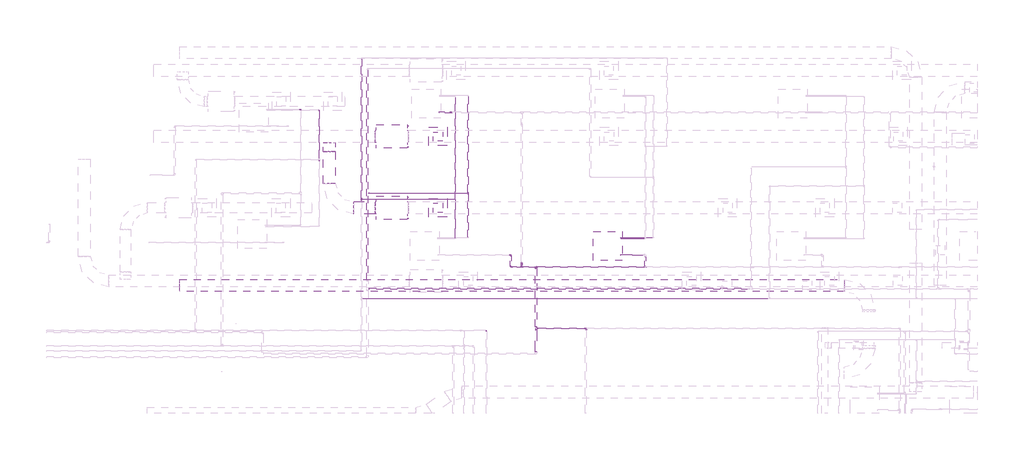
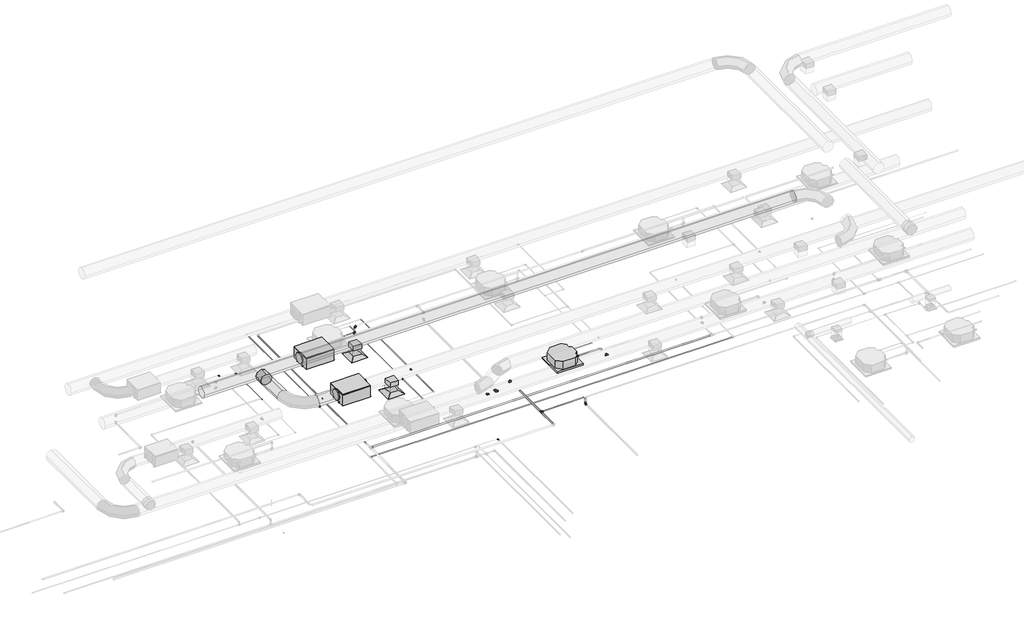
# One storey, part 16 of 21: 28 pipe segments, 26 pipe fittings, 5 duct segments, 3 duct fittings, 3 proxies, 2 air terminals.
"""IFC4 building model written with IfcOpenShell, lengths in millimetres."""

from ifc_helpers import new_model, si_unit, point, frame, frame_2d, origin, place, context, project, spatial, polyline, circle_curve, trimmed, segment, composite_curve, outline, extrude, transform, mapped, element, save
from components import air_terminal_ff221211, mechanical_equipment_53173f38, fh_fh_400_6e0c7af0, duct_fitting_1040440d, duct_fitting_95c1ddea, pipe_fitting_535881cf, pipe_fitting_144f4440, pipe_fitting_14eb6376, pipe_fitting_094f8e04, pipe_fitting_ec53ccd8, pipe_fitting_bac944c5, pipe_fitting_c8e70db0, pipe_fitting_47422d38, pipe_fitting_139f5212, pipe_fitting_e567efff, pipe_fitting_182e23ec, pipe_fitting_c900cfc2, pipe_fitting_16c020f5, pipe_fitting_b10472de, pipe_fitting_59d1f3e3, pipe_fitting_648138cd, pipe_fitting_725bd888, pipe_fitting_da16c1b3, pipe_fitting_5a6d96d3, pipe_fitting_3e80353c, pipe_fitting_15d42c28

model = new_model("IFC4")

# Units and contexts
model_context = context("Model", 3, world=origin())
ifc_project = project(units=[si_unit("LENGTHUNIT", "METRE", prefix="MILLI")], contexts=[model_context])

# Site, building, storey
site = spatial("IfcSite", under=ifc_project)
building = spatial("IfcBuilding", under=site)
storey = spatial("IfcBuildingStorey", under=building, Name="Nível 1", Elevation=0.0)

# Air terminals
placement = place(None, origin())
air_terminal_shape = air_terminal_ff221211(model_context)
element("IfcAirTerminal", 1, ObjectType="M_Difusor de fornecimento : 600 x 600 Face 300 x 300 Conexão", at=placement, inside=storey, context=model_context, shape_type="MappedRepresentation", body=[
    mapped(air_terminal_shape, transform((6574.1370645, 4681.9327662, 3000.0), x_axis=(0.0, -1.0, 0.0), y_axis=(1.0, 0.0, 0.0), z_axis=(0.0, 0.0, 1.0))),
])
element("IfcAirTerminal", 2, ObjectType="M_Difusor de fornecimento : 600 x 600 Face 300 x 300 Conexão", at=placement, inside=storey, context=model_context, shape_type="MappedRepresentation", body=[
    mapped(air_terminal_shape, transform((6574.1370645, 7022.5342821, 3000.0), x_axis=(0.0, -1.0, 0.0), y_axis=(1.0, 0.0, 0.0), z_axis=(0.0, 0.0, 1.0))),
])

# Proxies
mechanical_equipment_shape = mechanical_equipment_53173f38(model_context)
element("IfcBuildingElementProxy", 3, Name="Midea_VRF_Indoor_4-way Cassette_MI-90(100,112,140)Q4_DHN1-D (2nd DC) : MI2-112Q4DHN1", ObjectType="Midea_VRF_Indoor_4-way Cassette_MI-90(100,112,140)Q4_DHN1-D (2nd DC) : MI2-112Q4DHN1", at=placement, inside=storey, context=model_context, shape_type="MappedRepresentation", body=[
    mapped(mechanical_equipment_shape, transform((12136.4781645, 3426.4200133, 3000.0), x_axis=(1.0, 0.0, 0.0), y_axis=(0.0, 1.0, 0.0), z_axis=(0.0, 0.0, 1.0))),
])
fh_fh_400_shape = fh_fh_400_6e0c7af0(model_context)
element("IfcBuildingElementProxy", 4, Name="FH : FH 400", ObjectType="FH : FH 400", at=placement, inside=storey, context=model_context, shape_type="MappedRepresentation", body=[
    mapped(fh_fh_400_shape, transform((5060.3899244, 7022.5342821, 3400.0), x_axis=(0.0, 1.0, 0.0), y_axis=(-1.0, 0.0, 0.0), z_axis=(0.0, 0.0, 1.0))),
])
element("IfcBuildingElementProxy", 5, Name="FH : FH 400", ObjectType="FH : FH 400", at=placement, inside=storey, context=model_context, shape_type="MappedRepresentation", body=[
    mapped(fh_fh_400_shape, transform((5060.3899244, 4681.9327662, 3400.0), x_axis=(0.0, 1.0, 0.0), y_axis=(-1.0, 0.0, 0.0), z_axis=(0.0, 0.0, 1.0))),
])

# Duct fittings
duct_fitting_shape = duct_fitting_1040440d(model_context)
element("IfcDuctFitting", 6, ObjectType="M_Encaixe de duto redondo : Padrão", at=placement, inside=storey, context=model_context, shape_type="MappedRepresentation", body=[
    mapped(duct_fitting_shape, transform((3013.3899244, 6822.5342821, 3621.0), x_axis=(0.0, -1.0, 0.0), y_axis=(-1.0, 0.0, 0.0), z_axis=(0.0, 0.0, -1.0))),
])
duct_fitting_2_shape = duct_fitting_95c1ddea(model_context)
element("IfcDuctFitting", 7, ObjectType="M_Encaixe de duto retangular : Padrão", at=placement, inside=storey, context=model_context, shape_type="MappedRepresentation", body=[
    mapped(duct_fitting_2_shape, transform((6574.1370645, 4681.9327662, 3421.0), x_axis=(0.0, 0.0, -1.0), y_axis=(-1.0, 0.0, 0.0), z_axis=(0.0, 1.0, 0.0))),
])
element("IfcDuctFitting", 8, ObjectType="M_Encaixe de duto retangular : Padrão", at=placement, inside=storey, context=model_context, shape_type="MappedRepresentation", body=[
    mapped(duct_fitting_2_shape, transform((6574.1370645, 7022.5342821, 3421.0), x_axis=(0.0, 0.0, -1.0), y_axis=(-1.0, 0.0, 0.0), z_axis=(0.0, 1.0, 0.0))),
])

# Duct segments
element("IfcDuctSegment", 9, ObjectType="Torneiras / Raio curto", at=placement, inside=storey, context=model_context, shape_type="SweptSolid", body=[
    extrude(outline(composite_curve([segment(trimmed(circle_curve(frame_2d((4681.9327662, 3621.0)), 200.0), [point((4881.9327662, 3621.0))], [point((4681.9327662, 3421.0))], False, "CARTESIAN"), True, "CONTINUOUS"), segment(trimmed(circle_curve(frame_2d((4681.9327662, 3621.0)), 200.0), [point((4681.9327662, 3421.0))], [point((4481.9327662, 3621.0))], False, "CARTESIAN"), True, "CONTINUOUS"), segment(trimmed(circle_curve(frame_2d((4681.9327662, 3621.0)), 200.0), [point((4481.9327662, 3621.0))], [point((4681.9327662, 3821.0))], False, "CARTESIAN"), True, "CONTINUOUS"), segment(trimmed(circle_curve(frame_2d((4681.9327662, 3621.0)), 200.0), [point((4681.9327662, 3821.0))], [point((4881.9327662, 3621.0))], False, "CARTESIAN"), True, "CONTINUOUS")], self_intersect=False)), frame((3813.3899244, 0.0, 0.0), z_axis=(1.0, 0.0, 0.0), x_axis=(0.0, 1.0, 0.0)), (0.0, 0.0, 1.0), 700.0),
])
element("IfcDuctSegment", 10, ObjectType="Torneiras / Raio curto", at=placement, inside=storey, context=model_context, shape_type="SweptSolid", body=[
    extrude(outline(composite_curve([segment(trimmed(circle_curve(frame_2d((3621.0, 3013.3899244)), 200.0), [point((3621.0, 2813.3899244))], [point((3421.0, 3013.3899244))], False, "CARTESIAN"), True, "CONTINUOUS"), segment(trimmed(circle_curve(frame_2d((3621.0, 3013.3899244)), 200.0), [point((3421.0, 3013.3899244))], [point((3621.0, 3213.3899244))], False, "CARTESIAN"), True, "CONTINUOUS"), segment(trimmed(circle_curve(frame_2d((3621.0, 3013.3899244)), 200.0), [point((3621.0, 3213.3899244))], [point((3821.0, 3013.3899244))], False, "CARTESIAN"), True, "CONTINUOUS"), segment(trimmed(circle_curve(frame_2d((3621.0, 3013.3899244)), 200.0), [point((3821.0, 3013.3899244))], [point((3621.0, 2813.3899244))], False, "CARTESIAN"), True, "CONTINUOUS")], self_intersect=False)), frame((0.0, 5481.9327662, 0.0), z_axis=(0.0, 1.0, 0.0), x_axis=(0.0, 0.0, 1.0)), (0.0, 0.0, 1.0), 1039.001516),
])
element("IfcDuctSegment", 11, ObjectType="Raios cotovelos / torneiras", at=placement, inside=storey, context=model_context, shape_type="SweptSolid", body=[
    extrude(outline(polyline([(6724.1370645, 4531.9327662), (6424.1370645, 4531.9327662), (6424.1370645, 4831.9327662), (6724.1370645, 4831.9327662), (6724.1370645, 4531.9327662)])), frame((0.0, 0.0, 3101.6), z_axis=(0.0, 0.0, 1.0), x_axis=(1.0, 0.0, 0.0)), (0.0, 0.0, 1.0), 217.8),
])
element("IfcDuctSegment", 12, ObjectType="Raios cotovelos / torneiras", at=placement, inside=storey, context=model_context, shape_type="SweptSolid", body=[
    extrude(outline(polyline([(6724.1370645, 6872.5342821), (6424.1370645, 6872.5342821), (6424.1370645, 7172.5342821), (6724.1370645, 7172.5342821), (6724.1370645, 6872.5342821)])), frame((0.0, 0.0, 3101.6), z_axis=(0.0, 0.0, 1.0), x_axis=(1.0, 0.0, 0.0)), (0.0, 0.0, 1.0), 217.8),
])
element("IfcDuctSegment", 13, ObjectType="Torneiras / Raio curto", at=placement, inside=storey, context=model_context, shape_type="SweptSolid", body=[
    extrude(outline(composite_curve([segment(trimmed(circle_curve(frame_2d((2137.3539749, 7501.0)), 200.0), [point((2337.3539749, 7501.0))], [point((2137.3539749, 7301.0))], False, "CARTESIAN"), True, "CONTINUOUS"), segment(trimmed(circle_curve(frame_2d((2137.3539749, 7501.0)), 200.0), [point((2137.3539749, 7301.0))], [point((1937.3539749, 7501.0))], False, "CARTESIAN"), True, "CONTINUOUS"), segment(trimmed(circle_curve(frame_2d((2137.3539749, 7501.0)), 200.0), [point((1937.3539749, 7501.0))], [point((2137.3539749, 7701.0))], False, "CARTESIAN"), True, "CONTINUOUS"), segment(trimmed(circle_curve(frame_2d((2137.3539749, 7501.0)), 200.0), [point((2137.3539749, 7701.0))], [point((2337.3539749, 7501.0))], False, "CARTESIAN"), True, "CONTINUOUS")], self_intersect=False)), frame((-1887.8516959, 0.0, 0.0), z_axis=(1.0, 0.0, 0.0), x_axis=(0.0, 1.0, 0.0)), (0.0, 0.0, 1.0), 21770.5013264),
])

# Pipe fittings
pipe_fitting_shape = pipe_fitting_535881cf(model_context)
element("IfcPipeFitting", 14, ObjectType="Cotovelo - Soldado - CU : Padrão", at=placement, inside=storey, context=model_context, shape_type="MappedRepresentation", body=[
    mapped(pipe_fitting_shape, transform((8961.4781645, 3141.4200133, 3252.3), x_axis=(0.0, 1.0, 0.0), y_axis=(-0.9999999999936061, 0.0, 3.5760132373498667e-06), z_axis=(3.5760132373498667e-06, 0.0, 0.9999999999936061))),
])
element("IfcPipeFitting", 15, ObjectType="Cotovelo - Soldado - CU : Padrão", at=placement, inside=storey, context=model_context, shape_type="MappedRepresentation", body=[
    mapped(pipe_fitting_shape, transform((8961.4781645, 2741.4200133, 3252.3), x_axis=(0.0, -1.0, 0.0), y_axis=(1.0, 0.0, 0.0), z_axis=(0.0, 0.0, 1.0))),
])
pipe_fitting_2_shape = pipe_fitting_144f4440(model_context)
element("IfcPipeFitting", 16, ObjectType="Cotovelo - PVC - CW : Padrão", at=placement, inside=storey, context=model_context, shape_type="MappedRepresentation", body=[
    mapped(pipe_fitting_2_shape, transform((7016.7954065, 7810.8048285, 3500.0), x_axis=(0.0, 0.0, 1.0), y_axis=(1.0, 0.0, 0.0), z_axis=(0.0, 1.0, 0.0))),
])
element("IfcPipeFitting", 17, ObjectType="Cotovelo - PVC - CW : Padrão", at=placement, inside=storey, context=model_context, shape_type="MappedRepresentation", body=[
    mapped(pipe_fitting_2_shape, transform((11415.2166257, 732.1759778, 3252.3), x_axis=(0.0, 0.0, -1.0), y_axis=(0.0, -1.0, 0.0), z_axis=(-1.0, 0.0, 0.0))),
])
pipe_fitting_3_shape = pipe_fitting_14eb6376(model_context)
element("IfcPipeFitting", 18, ObjectType="Tê de redução - PVC - CW : Padrão", at=placement, inside=storey, context=model_context, shape_type="MappedRepresentation", body=[
    mapped(pipe_fitting_3_shape, transform((13361.4781645, 2741.4200133, 3252.3), x_axis=(-1.0, 0.0, 0.0), y_axis=(0.0, -1.0, 0.0), z_axis=(0.0, 0.0, 1.0))),
])
element("IfcPipeFitting", 19, ObjectType="Tê de redução - PVC - CW : Padrão", at=placement, inside=storey, context=model_context, shape_type="MappedRepresentation", body=[
    mapped(pipe_fitting_3_shape, transform((9316.7954065, 2741.4200133, 3252.3), x_axis=(-1.0, 0.0, 0.0), y_axis=(0.0, -1.0, 0.0), z_axis=(0.0, 0.0, 1.0))),
])
pipe_fitting_4_shape = pipe_fitting_094f8e04(model_context)
element("IfcPipeFitting", 20, ObjectType="Cotovelo - PVC - CW : Padrão", at=placement, inside=storey, context=model_context, shape_type="MappedRepresentation", body=[
    mapped(pipe_fitting_4_shape, transform((9316.7954065, 2820.0068245, 3252.3), x_axis=(0.0, 1.0, 0.0), y_axis=(0.0, 0.0, -1.0), z_axis=(-1.0, 0.0, 0.0))),
])
element("IfcPipeFitting", 21, ObjectType="Cotovelo - PVC - CW : Padrão", at=placement, inside=storey, context=model_context, shape_type="MappedRepresentation", body=[
    mapped(pipe_fitting_4_shape, transform((9316.7954065, 2872.3068245, 3200.0), x_axis=(0.0, 0.7071067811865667, -0.7071067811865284), y_axis=(0.0, 0.7071067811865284, 0.7071067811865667), z_axis=(1.0, 0.0, 0.0))),
])
pipe_fitting_5_shape = pipe_fitting_ec53ccd8(model_context)
element("IfcPipeFitting", 22, ObjectType="Bucha de redução reta - Soldada - CU : Padrão", at=placement, inside=storey, context=model_context, shape_type="MappedRepresentation", body=[
    mapped(pipe_fitting_5_shape, transform((9003.0781645, 2741.4200133, 3252.3), x_axis=(1.0, 0.0, 0.0), y_axis=(0.0, 1.0, 0.0), z_axis=(0.0, 0.0, 1.0))),
])
pipe_fitting_6_shape = pipe_fitting_bac944c5(model_context)
element("IfcPipeFitting", 23, ObjectType="Cotovelo - PVC - CW : Padrão", at=placement, inside=storey, context=model_context, shape_type="MappedRepresentation", body=[
    mapped(pipe_fitting_6_shape, transform((7016.7954065, 7810.8048285, 3252.3), x_axis=(0.9999999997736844, 0.0, -2.1275133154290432e-05), y_axis=(2.1275133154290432e-05, 0.0, 0.9999999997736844), z_axis=(0.0, -1.0, 0.0))),
])
pipe_fitting_7_shape = pipe_fitting_c8e70db0(model_context)
element("IfcPipeFitting", 24, ObjectType="Cotovelo - PVC - CW : Padrão", at=placement, inside=storey, context=model_context, shape_type="MappedRepresentation", body=[
    mapped(pipe_fitting_7_shape, transform((9790.3015024, 2741.4200133, 3500.0), x_axis=(0.0, 0.0, 1.0), y_axis=(0.0, -1.0, 0.0), z_axis=(1.0, 0.0, 0.0))),
])
pipe_fitting_8_shape = pipe_fitting_47422d38(model_context)
element("IfcPipeFitting", 25, ObjectType="Tê - Soldado - CU : Padrão", at=placement, inside=storey, context=model_context, shape_type="MappedRepresentation", body=[
    mapped(pipe_fitting_8_shape, transform((9790.3015024, 732.1759778, 3500.0), x_axis=(0.0, 1.0, 0.0), y_axis=(-1.0, 0.0, 0.0), z_axis=(0.0, 0.0, 1.0))),
])
pipe_fitting_9_shape = pipe_fitting_139f5212(model_context)
element("IfcPipeFitting", 26, ObjectType="Bucha de redução reta - Soldada - CU : Padrão", at=placement, inside=storey, context=model_context, shape_type="MappedRepresentation", body=[
    mapped(pipe_fitting_9_shape, transform((9837.4315024, 732.1759778, 3500.0), x_axis=(1.0, 0.0, 0.0), y_axis=(0.0, 1.0, 0.0), z_axis=(0.0, 0.0, 1.0))),
])
pipe_fitting_10_shape = pipe_fitting_e567efff(model_context)
element("IfcPipeFitting", 27, ObjectType="Bucha de redução reta - Soldada - CU : Padrão", at=placement, inside=storey, context=model_context, shape_type="MappedRepresentation", body=[
    mapped(pipe_fitting_10_shape, transform((2688.5154392, 6230.7726082, 3146.8447713), x_axis=(0.0, -0.9999999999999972, 7.527757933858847e-08), y_axis=(0.999999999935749, 0.0, -1.1335879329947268e-05), z_axis=(1.13358793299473e-05, 7.52775793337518e-08, 0.9999999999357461))),
])
pipe_fitting_11_shape = pipe_fitting_182e23ec(model_context)
element("IfcPipeFitting", 28, ObjectType="Bucha de redução reta - Soldada - CU : Padrão", at=placement, inside=storey, context=model_context, shape_type="MappedRepresentation", body=[
    mapped(pipe_fitting_11_shape, transform((4299.9781645, 5162.2439601, 3252.300102), x_axis=(0.9999999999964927, 0.0, 2.648525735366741e-06), y_axis=(0.0, 1.0, 0.0), z_axis=(-2.648525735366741e-06, 0.0, 0.9999999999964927))),
])
pipe_fitting_12_shape = pipe_fitting_c900cfc2(model_context)
element("IfcPipeFitting", 29, ObjectType="Bucha de redução reta - Soldada - CU : Padrão", at=placement, inside=storey, context=model_context, shape_type="MappedRepresentation", body=[
    mapped(pipe_fitting_12_shape, transform((12561.4781645, 3699.630827, 3252.3085101), x_axis=(1.0, 0.0, 0.0), y_axis=(0.0, 1.0, 0.0), z_axis=(0.0, 0.0, 1.0))),
])
pipe_fitting_13_shape = pipe_fitting_16c020f5(model_context)
element("IfcPipeFitting", 30, ObjectType="Cotovelo - Soldado - CU : Padrão", at=placement, inside=storey, context=model_context, shape_type="MappedRepresentation", body=[
    mapped(pipe_fitting_13_shape, transform((2081.0820392, 7916.9038526, 3252.2790267), x_axis=(0.0, 0.9999999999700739, -7.736412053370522e-06), y_axis=(-0.9999999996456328, 2.0595927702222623e-10, 2.662206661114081e-05), z_axis=(2.6622066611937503e-05, 7.736412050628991e-06, 0.9999999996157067))),
])
pipe_fitting_14_shape = pipe_fitting_b10472de(model_context)
element("IfcPipeFitting", 31, ObjectType="Tê - Soldado - CU : Padrão", at=placement, inside=storey, context=model_context, shape_type="MappedRepresentation", body=[
    mapped(pipe_fitting_14_shape, transform((7561.4781645, 5162.2439601, 3252.3085101), x_axis=(0.0, 1.0, 0.0), y_axis=(1.0, 0.0, 0.0), z_axis=(0.0, 0.0, -1.0))),
])
pipe_fitting_15_shape = pipe_fitting_59d1f3e3(model_context)
element("IfcPipeFitting", 32, ObjectType="Bucha de redução reta - Soldada - CU : Padrão", at=placement, inside=storey, context=model_context, shape_type="MappedRepresentation", body=[
    mapped(pipe_fitting_15_shape, transform((12561.4781645, 3665.8283851, 3146.8446487), x_axis=(1.0, 0.0, 0.0), y_axis=(0.0, 1.0, 0.0), z_axis=(0.0, 0.0, 1.0))),
])
pipe_fitting_16_shape = pipe_fitting_648138cd(model_context)
element("IfcPipeFitting", 33, ObjectType="Cotovelo - Soldado - CU : Padrão", at=placement, inside=storey, context=model_context, shape_type="MappedRepresentation", body=[
    mapped(pipe_fitting_16_shape, transform((2688.5154392, 7883.1014107, 3146.8446487), x_axis=(0.0, 0.9999999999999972, -7.527757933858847e-08), y_axis=(-1.0000000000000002, 0.0, 0.0), z_axis=(0.0, 7.527757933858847e-08, 0.9999999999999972))),
])
pipe_fitting_17_shape = pipe_fitting_725bd888(model_context)
element("IfcPipeFitting", 34, ObjectType="Tê - Soldado - CU : Padrão", at=placement, inside=storey, context=model_context, shape_type="MappedRepresentation", body=[
    mapped(pipe_fitting_17_shape, transform((7137.4525629, 4963.7617254, 3146.8012787), x_axis=(0.0, -0.9999999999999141, 4.148755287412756e-07), y_axis=(0.999999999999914, 0.0, 4.152824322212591e-07), z_axis=(-4.152824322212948e-07, 4.1487552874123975e-07, 0.9999999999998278))),
])
pipe_fitting_18_shape = pipe_fitting_da16c1b3(model_context)
element("IfcPipeFitting", 35, ObjectType="Tê - Soldado - CU : Padrão", at=placement, inside=storey, context=model_context, shape_type="MappedRepresentation", body=[
    mapped(pipe_fitting_18_shape, transform((4067.8281628, 4963.7617254, 3146.8), x_axis=(0.0, -1.0, 0.0), y_axis=(-0.9999999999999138, 0.0, -4.1528243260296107e-07), z_axis=(4.1528243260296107e-07, 0.0, -0.9999999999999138))),
])
pipe_fitting_19_shape = pipe_fitting_5a6d96d3(model_context)
element("IfcPipeFitting", 36, ObjectType="Bucha de redução reta - Soldada - CU : Padrão", at=placement, inside=storey, context=model_context, shape_type="MappedRepresentation", body=[
    mapped(pipe_fitting_19_shape, transform((4092.8451628, 4963.7617254, 3146.8000104), x_axis=(0.9999999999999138, 0.0, 4.1528243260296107e-07), y_axis=(0.0, 1.0000000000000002, 0.0), z_axis=(-4.1528243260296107e-07, 0.0, 0.9999999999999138))),
])
element("IfcPipeFitting", 37, ObjectType="Bucha de redução reta - Soldada - CU : Padrão", at=placement, inside=storey, context=model_context, shape_type="MappedRepresentation", body=[
    mapped(pipe_fitting_19_shape, transform((4067.8281628, 4988.8452254, 3146.8), x_axis=(0.0, 1.0, 0.0), y_axis=(-0.9999999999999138, 0.0, -4.1528243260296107e-07), z_axis=(-4.1528243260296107e-07, 0.0, 0.9999999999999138))),
])
pipe_fitting_20_shape = pipe_fitting_3e80353c(model_context)
element("IfcPipeFitting", 38, ObjectType="Cotovelo - Soldado - CU : Padrão", at=placement, inside=storey, context=model_context, shape_type="MappedRepresentation", body=[
    mapped(pipe_fitting_20_shape, transform((8166.1005867, 666.0796084, 3046.8), x_axis=(0.0, 1.0, 0.0), y_axis=(-1.0, 0.0, 0.0), z_axis=(0.0, 0.0, 1.0))),
])
pipe_fitting_21_shape = pipe_fitting_15d42c28(model_context)
element("IfcPipeFitting", 39, ObjectType="Bucha de redução reta - Soldada - CU : Padrão", at=placement, inside=storey, context=model_context, shape_type="MappedRepresentation", body=[
    mapped(pipe_fitting_21_shape, transform((4067.8281628, 4938.6782254, 3146.8), x_axis=(0.0, -1.0, 0.0), y_axis=(0.9999999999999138, 0.0, 4.1528243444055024e-07), z_axis=(-4.1528243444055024e-07, 0.0, 0.9999999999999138))),
])

# Pipe segments
element("IfcPipeSegment", 40, ObjectType="Tubos de cobre HVAC", at=placement, inside=storey, context=model_context, shape_type="SweptSolid", body=[
    extrude(outline(composite_curve([segment(trimmed(circle_curve(frame_2d((3699.630827, 3252.3085101)), 7.935), [point((3691.695827, 3252.3085101))], [point((3699.630827, 3260.2435101))], False, "CARTESIAN"), True, "CONTINUOUS"), segment(trimmed(circle_curve(frame_2d((3699.630827, 3252.3085101)), 7.935), [point((3699.630827, 3260.2435101))], [point((3707.565827, 3252.3085101))], False, "CARTESIAN"), True, "CONTINUOUS"), segment(trimmed(circle_curve(frame_2d((3699.630827, 3252.3085101)), 7.935), [point((3707.565827, 3252.3085101))], [point((3699.630827, 3244.3735101))], False, "CARTESIAN"), True, "CONTINUOUS"), segment(trimmed(circle_curve(frame_2d((3699.630827, 3252.3085101)), 7.935), [point((3699.630827, 3244.3735101))], [point((3691.695827, 3252.3085101))], False, "CARTESIAN"), True, "CONTINUOUS")], self_intersect=False)), frame((12574.1370645, 0.0, 0.0), z_axis=(1.0, 0.0, 0.0), x_axis=(0.0, 1.0, 0.0)), (0.0, 0.0, 1.0), 1026.3386421),
])
element("IfcPipeSegment", 41, ObjectType="Tubos de cobre HVAC", at=placement, inside=storey, context=model_context, shape_type="SweptSolid", body=[
    extrude(outline(composite_curve([segment(trimmed(circle_curve(frame_2d((0.0, -4.76)), 4.76), [point((-4.76, -4.76))], [point((0.0, 0.0))], False, "CARTESIAN"), True, "CONTINUOUS"), segment(trimmed(circle_curve(frame_2d((0.0, -4.76)), 4.76), [point((0.0, 0.0))], [point((4.76, -4.76))], False, "CARTESIAN"), True, "CONTINUOUS"), segment(trimmed(circle_curve(frame_2d((0.0, -4.76)), 4.76), [point((4.76, -4.76))], [point((0.0, -9.52))], False, "CARTESIAN"), True, "CONTINUOUS"), segment(trimmed(circle_curve(frame_2d((0.0, -4.76)), 4.76), [point((0.0, -9.52))], [point((-4.76, -4.76))], False, "CARTESIAN"), True, "CONTINUOUS")], self_intersect=False)), frame((13347.1268112, 3665.8283851, 3142.0597292), z_axis=(-0.9999999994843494, 0.0, 3.211388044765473e-05), x_axis=(0.0, 1.0, 0.0)), (0.0, 0.0, 1.0), 775.9744),
])
element("IfcPipeSegment", 42, ObjectType="Tubos de cobre HVAC", at=placement, inside=storey, context=model_context, shape_type="SweptSolid", body=[
    extrude(outline(composite_curve([segment(trimmed(circle_curve(frame_2d((3252.3, 8961.4781645)), 17.5), [point((3252.3, 8943.9781645))], [point((3234.8, 8961.4781645))], False, "CARTESIAN"), True, "CONTINUOUS"), segment(trimmed(circle_curve(frame_2d((3252.3, 8961.4781645)), 17.5), [point((3234.8, 8961.4781645))], [point((3252.3, 8978.9781645))], False, "CARTESIAN"), True, "CONTINUOUS"), segment(trimmed(circle_curve(frame_2d((3252.3, 8961.4781645)), 17.5), [point((3252.3, 8978.9781645))], [point((3269.8, 8961.4781645))], False, "CARTESIAN"), True, "CONTINUOUS"), segment(trimmed(circle_curve(frame_2d((3252.3, 8961.4781645)), 17.5), [point((3269.8, 8961.4781645))], [point((3252.3, 8943.9781645))], False, "CARTESIAN"), True, "CONTINUOUS")], self_intersect=False)), frame((0.0, 2783.0200133, 0.0), z_axis=(0.0, 1.0, 0.0), x_axis=(0.0, 0.0, 1.0)), (0.0, 0.0, 1.0), 316.8),
])
element("IfcPipeSegment", 43, ObjectType="Plástico", at=placement, inside=storey, context=model_context, shape_type="SweptSolid", body=[
    extrude(outline(composite_curve([segment(trimmed(circle_curve(frame_2d((0.0, -20.0)), 20.0), [point((-20.0, -20.0))], [point((0.0, 0.0))], False, "CARTESIAN"), True, "CONTINUOUS"), segment(trimmed(circle_curve(frame_2d((0.0, -20.0)), 20.0), [point((0.0, 0.0))], [point((20.0, -20.0))], False, "CARTESIAN"), True, "CONTINUOUS"), segment(trimmed(circle_curve(frame_2d((0.0, -20.0)), 20.0), [point((20.0, -20.0))], [point((0.0, -40.0))], False, "CARTESIAN"), True, "CONTINUOUS"), segment(trimmed(circle_curve(frame_2d((0.0, -20.0)), 20.0), [point((0.0, -40.0))], [point((-20.0, -20.0))], False, "CARTESIAN"), True, "CONTINUOUS")], self_intersect=False)), frame((13316.4779517, 3141.4200133, 3232.3004787), z_axis=(-0.9999999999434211, 0.0, 1.0637566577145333e-05), x_axis=(0.0, 1.0, 0.0)), (0.0, 0.0, 1.0), 755.0),
])
element("IfcPipeSegment", 44, ObjectType="Plástico", at=placement, inside=storey, context=model_context, shape_type="SweptSolid", body=[
    extrude(outline(composite_curve([segment(trimmed(circle_curve(frame_2d((3252.3, 13361.4781645)), 20.0), [point((3252.3, 13381.4781645))], [point((3272.3, 13361.4781645))], False, "CARTESIAN"), True, "CONTINUOUS"), segment(trimmed(circle_curve(frame_2d((3252.3, 13361.4781645)), 20.0), [point((3272.3, 13361.4781645))], [point((3252.3, 13341.4781645))], False, "CARTESIAN"), True, "CONTINUOUS"), segment(trimmed(circle_curve(frame_2d((3252.3, 13361.4781645)), 20.0), [point((3252.3, 13341.4781645))], [point((3232.3, 13361.4781645))], False, "CARTESIAN"), True, "CONTINUOUS"), segment(trimmed(circle_curve(frame_2d((3252.3, 13361.4781645)), 20.0), [point((3232.3, 13361.4781645))], [point((3252.3, 13381.4781645))], False, "CARTESIAN"), True, "CONTINUOUS")], self_intersect=False)), frame((0.0, 2785.4200133, 0.0), z_axis=(0.0, 1.0, 0.0), x_axis=(0.0, 0.0, 1.0)), (0.0, 0.0, 1.0), 311.0),
])
element("IfcPipeSegment", 45, ObjectType="Plástico", at=placement, inside=storey, context=model_context, shape_type="SweptSolid", body=[
    extrude(outline(composite_curve([segment(trimmed(circle_curve(frame_2d((2741.4200133, 3252.3)), 20.0), [point((2721.4200133, 3252.3))], [point((2741.4200133, 3272.3))], False, "CARTESIAN"), True, "CONTINUOUS"), segment(trimmed(circle_curve(frame_2d((2741.4200133, 3252.3)), 20.0), [point((2741.4200133, 3272.3))], [point((2761.4200133, 3252.3))], False, "CARTESIAN"), True, "CONTINUOUS"), segment(trimmed(circle_curve(frame_2d((2741.4200133, 3252.3)), 20.0), [point((2761.4200133, 3252.3))], [point((2741.4200133, 3232.3))], False, "CARTESIAN"), True, "CONTINUOUS"), segment(trimmed(circle_curve(frame_2d((2741.4200133, 3252.3)), 20.0), [point((2741.4200133, 3232.3))], [point((2721.4200133, 3252.3))], False, "CARTESIAN"), True, "CONTINUOUS")], self_intersect=False)), frame((9833.5215024, 0.0, 0.0), z_axis=(1.0, 0.0, 0.0), x_axis=(0.0, 1.0, 0.0)), (0.0, 0.0, 1.0), 3484.7066621),
])
element("IfcPipeSegment", 46, ObjectType="Plástico", at=placement, inside=storey, context=model_context, shape_type="SweptSolid", body=[
    extrude(outline(composite_curve([segment(trimmed(circle_curve(frame_2d((0.0, -20.0)), 20.0), [point((-20.0, -20.0))], [point((0.0, 0.0))], False, "CARTESIAN"), True, "CONTINUOUS"), segment(trimmed(circle_curve(frame_2d((0.0, -20.0)), 20.0), [point((0.0, 0.0))], [point((20.0, -20.0))], False, "CARTESIAN"), True, "CONTINUOUS"), segment(trimmed(circle_curve(frame_2d((0.0, -20.0)), 20.0), [point((20.0, -20.0))], [point((0.0, -40.0))], False, "CARTESIAN"), True, "CONTINUOUS"), segment(trimmed(circle_curve(frame_2d((0.0, -20.0)), 20.0), [point((0.0, -40.0))], [point((-20.0, -20.0))], False, "CARTESIAN"), True, "CONTINUOUS")], self_intersect=False)), frame((6971.7944917, 7810.8048285, 3232.3009574), z_axis=(-0.9999999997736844, 0.0, 2.1275133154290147e-05), x_axis=(0.0, 1.0, 0.0)), (0.0, 0.0, 1.0), 354.9995107),
])
element("IfcPipeSegment", 47, ObjectType="Plástico", at=placement, inside=storey, context=model_context, shape_type="SweptSolid", body=[
    extrude(outline(composite_curve([segment(trimmed(circle_curve(frame_2d((7016.7954065, 7810.8048285)), 20.0), [point((7036.7954065, 7810.8048285))], [point((7016.7954065, 7790.8048285))], False, "CARTESIAN"), True, "CONTINUOUS"), segment(trimmed(circle_curve(frame_2d((7016.7954065, 7810.8048285)), 20.0), [point((7016.7954065, 7790.8048285))], [point((6996.7954065, 7810.8048285))], False, "CARTESIAN"), True, "CONTINUOUS"), segment(trimmed(circle_curve(frame_2d((7016.7954065, 7810.8048285)), 20.0), [point((6996.7954065, 7810.8048285))], [point((7016.7954065, 7830.8048285))], False, "CARTESIAN"), True, "CONTINUOUS"), segment(trimmed(circle_curve(frame_2d((7016.7954065, 7810.8048285)), 20.0), [point((7016.7954065, 7830.8048285))], [point((7036.7954065, 7810.8048285))], False, "CARTESIAN"), True, "CONTINUOUS")], self_intersect=False)), frame((0.0, 0.0, 3297.3004893), z_axis=(0.0, 0.0, 1.0), x_axis=(1.0, 0.0, 0.0)), (0.0, 0.0, 1.0), 157.6995107),
])
element("IfcPipeSegment", 48, ObjectType="Plástico", at=placement, inside=storey, context=model_context, shape_type="SweptSolid", body=[
    extrude(outline(composite_curve([segment(trimmed(circle_curve(frame_2d((0.0, 20.0)), 20.0), [point((0.0, 40.0))], [point((20.0, 20.0))], False, "CARTESIAN"), True, "CONTINUOUS"), segment(trimmed(circle_curve(frame_2d((0.0, 20.0)), 20.0), [point((20.0, 20.0))], [point((0.0, 0.0))], False, "CARTESIAN"), True, "CONTINUOUS"), segment(trimmed(circle_curve(frame_2d((0.0, 20.0)), 20.0), [point((0.0, 0.0))], [point((-20.0, 20.0))], False, "CARTESIAN"), True, "CONTINUOUS"), segment(trimmed(circle_curve(frame_2d((0.0, 20.0)), 20.0), [point((-20.0, 20.0))], [point((0.0, 40.0))], False, "CARTESIAN"), True, "CONTINUOUS")], self_intersect=False)), frame((9296.7954065, 2785.4200133, 3252.3), z_axis=(2.8289903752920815e-12, 1.0, 0.0), x_axis=(0.0, 0.0, 1.0)), (0.0, 0.0, 1.0), 3.0598993),
])
element("IfcPipeSegment", 49, ObjectType="Plástico", at=placement, inside=storey, context=model_context, shape_type="SweptSolid", body=[
    extrude(outline(composite_curve([segment(trimmed(circle_curve(frame_2d((0.0, -20.0)), 20.0), [point((20.0, -20.0))], [point((0.0, -39.9999999))], False, "CARTESIAN"), True, "CONTINUOUS"), segment(trimmed(circle_curve(frame_2d((0.0, -20.0)), 20.0), [point((0.0, -39.9999999))], [point((-20.0, -20.0))], False, "CARTESIAN"), True, "CONTINUOUS"), segment(trimmed(circle_curve(frame_2d((0.0, -20.0)), 20.0), [point((-20.0, -20.0))], [point((0.0, 0.0))], False, "CARTESIAN"), True, "CONTINUOUS"), segment(trimmed(circle_curve(frame_2d((0.0, -20.0)), 20.0), [point((0.0, 0.0))], [point((20.0, -20.0))], False, "CARTESIAN"), True, "CONTINUOUS")], self_intersect=False)), frame((9316.7954065, 2864.1560669, 3236.4350288), z_axis=(0.0, -0.7071067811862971, 0.7071067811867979), x_axis=(1.0, 0.0, 0.0)), (0.0, 0.0, 1.0), 10.9095454),
])
element("IfcPipeSegment", 50, ObjectType="Plástico", at=placement, inside=storey, context=model_context, shape_type="SweptSolid", body=[
    extrude(outline(composite_curve([segment(trimmed(circle_curve(frame_2d((2741.4200133, 3252.3)), 20.0), [point((2721.4200133, 3252.3))], [point((2741.4200133, 3272.3))], False, "CARTESIAN"), True, "CONTINUOUS"), segment(trimmed(circle_curve(frame_2d((2741.4200133, 3252.3)), 20.0), [point((2741.4200133, 3272.3))], [point((2761.4200133, 3252.3))], False, "CARTESIAN"), True, "CONTINUOUS"), segment(trimmed(circle_curve(frame_2d((2741.4200133, 3252.3)), 20.0), [point((2761.4200133, 3252.3))], [point((2741.4200133, 3232.3))], False, "CARTESIAN"), True, "CONTINUOUS"), segment(trimmed(circle_curve(frame_2d((2741.4200133, 3252.3)), 20.0), [point((2741.4200133, 3232.3))], [point((2721.4200133, 3252.3))], False, "CARTESIAN"), True, "CONTINUOUS")], self_intersect=False)), frame((9023.3181645, 0.0, 0.0), z_axis=(1.0, 0.0, 0.0), x_axis=(0.0, 1.0, 0.0)), (0.0, 0.0, 1.0), 250.227242),
])
element("IfcPipeSegment", 51, ObjectType="Plástico", at=placement, inside=storey, context=model_context, shape_type="SweptSolid", body=[
    extrude(outline(composite_curve([segment(trimmed(circle_curve(frame_2d((3500.0, 9790.3015024)), 25.0), [point((3500.0, 9765.3015024))], [point((3475.0, 9790.3015024))], False, "CARTESIAN"), True, "CONTINUOUS"), segment(trimmed(circle_curve(frame_2d((3500.0, 9790.3015024)), 25.0), [point((3475.0, 9790.3015024))], [point((3500.0, 9815.3015024))], False, "CARTESIAN"), True, "CONTINUOUS"), segment(trimmed(circle_curve(frame_2d((3500.0, 9790.3015024)), 25.0), [point((3500.0, 9815.3015024))], [point((3525.0, 9790.3015024))], False, "CARTESIAN"), True, "CONTINUOUS"), segment(trimmed(circle_curve(frame_2d((3500.0, 9790.3015024)), 25.0), [point((3525.0, 9790.3015024))], [point((3500.0, 9765.3015024))], False, "CARTESIAN"), True, "CONTINUOUS")], self_intersect=False)), frame((0.0, -44.5799867, 0.0), z_axis=(0.0, 1.0, 0.0), x_axis=(0.0, 0.0, 1.0)), (0.0, 0.0, 1.0), 729.6959645),
])
element("IfcPipeSegment", 52, ObjectType="Plástico", at=placement, inside=storey, context=model_context, shape_type="SweptSolid", body=[
    extrude(outline(composite_curve([segment(trimmed(circle_curve(frame_2d((9790.3015024, 2741.4200133)), 25.0), [point((9765.3015024, 2741.4200133))], [point((9790.3015024, 2766.4200133))], False, "CARTESIAN"), True, "CONTINUOUS"), segment(trimmed(circle_curve(frame_2d((9790.3015024, 2741.4200133)), 25.0), [point((9790.3015024, 2766.4200133))], [point((9815.3015024, 2741.4200133))], False, "CARTESIAN"), True, "CONTINUOUS"), segment(trimmed(circle_curve(frame_2d((9790.3015024, 2741.4200133)), 25.0), [point((9815.3015024, 2741.4200133))], [point((9790.3015024, 2716.4200133))], False, "CARTESIAN"), True, "CONTINUOUS"), segment(trimmed(circle_curve(frame_2d((9790.3015024, 2741.4200133)), 25.0), [point((9790.3015024, 2716.4200133))], [point((9765.3015024, 2741.4200133))], False, "CARTESIAN"), True, "CONTINUOUS")], self_intersect=False)), frame((0.0, 0.0, 3301.0), z_axis=(0.0, 0.0, 1.0), x_axis=(1.0, 0.0, 0.0)), (0.0, 0.0, 1.0), 145.0),
])
element("IfcPipeSegment", 53, ObjectType="Plástico", at=placement, inside=storey, context=model_context, shape_type="SweptSolid", body=[
    extrude(outline(composite_curve([segment(trimmed(circle_curve(frame_2d((2741.4200133, 3252.3)), 20.0), [point((2721.4200133, 3252.3))], [point((2741.4200133, 3272.3))], False, "CARTESIAN"), True, "CONTINUOUS"), segment(trimmed(circle_curve(frame_2d((2741.4200133, 3252.3)), 20.0), [point((2741.4200133, 3272.3))], [point((2761.4200133, 3252.3))], False, "CARTESIAN"), True, "CONTINUOUS"), segment(trimmed(circle_curve(frame_2d((2741.4200133, 3252.3)), 20.0), [point((2761.4200133, 3252.3))], [point((2741.4200133, 3232.3))], False, "CARTESIAN"), True, "CONTINUOUS"), segment(trimmed(circle_curve(frame_2d((2741.4200133, 3252.3)), 20.0), [point((2741.4200133, 3232.3))], [point((2721.4200133, 3252.3))], False, "CARTESIAN"), True, "CONTINUOUS")], self_intersect=False)), frame((9360.0454065, 0.0, 0.0), z_axis=(1.0, 0.0, 0.0), x_axis=(0.0, 1.0, 0.0)), (0.0, 0.0, 1.0), 387.0360959),
])
element("IfcPipeSegment", 54, ObjectType="Plástico", at=placement, inside=storey, context=model_context, shape_type="SweptSolid", body=[
    extrude(outline(composite_curve([segment(trimmed(circle_curve(frame_2d((3500.0, 9790.3015024)), 25.0), [point((3500.0, 9765.3015024))], [point((3475.0, 9790.3015024))], False, "CARTESIAN"), True, "CONTINUOUS"), segment(trimmed(circle_curve(frame_2d((3500.0, 9790.3015024)), 25.0), [point((3475.0, 9790.3015024))], [point((3500.0, 9815.3015024))], False, "CARTESIAN"), True, "CONTINUOUS"), segment(trimmed(circle_curve(frame_2d((3500.0, 9790.3015024)), 25.0), [point((3500.0, 9815.3015024))], [point((3525.0, 9790.3015024))], False, "CARTESIAN"), True, "CONTINUOUS"), segment(trimmed(circle_curve(frame_2d((3500.0, 9790.3015024)), 25.0), [point((3525.0, 9790.3015024))], [point((3500.0, 9765.3015024))], False, "CARTESIAN"), True, "CONTINUOUS")], self_intersect=False)), frame((0.0, 779.2359778, 0.0), z_axis=(0.0, 1.0, 0.0), x_axis=(0.0, 0.0, 1.0)), (0.0, 0.0, 1.0), 1908.1840355),
])
element("IfcPipeSegment", 55, ObjectType="Tubos de cobre HVAC", at=placement, inside=storey, context=model_context, shape_type="SweptSolid", body=[
    extrude(outline(composite_curve([segment(trimmed(circle_curve(frame_2d((3146.8447653, 2688.5154392)), 4.76), [point((3146.8447653, 2693.2754392))], [point((3151.6047653, 2688.5154392))], False, "CARTESIAN"), True, "CONTINUOUS"), segment(trimmed(circle_curve(frame_2d((3146.8447653, 2688.5154392)), 4.76), [point((3151.6047653, 2688.5154392))], [point((3146.8447653, 2683.7554392))], False, "CARTESIAN"), True, "CONTINUOUS"), segment(trimmed(circle_curve(frame_2d((3146.8447653, 2688.5154392)), 4.76), [point((3146.8447653, 2683.7554392))], [point((3142.0847653, 2688.5154392))], False, "CARTESIAN"), True, "CONTINUOUS"), segment(trimmed(circle_curve(frame_2d((3146.8447653, 2688.5154392)), 4.76), [point((3142.0847653, 2688.5154392))], [point((3146.8447653, 2693.2754392))], False, "CARTESIAN"), True, "CONTINUOUS")], self_intersect=False)), frame((0.0, 6311.0610082, 0.0), z_axis=(0.0, 1.0, 0.0), x_axis=(0.0, 0.0, 1.0)), (0.0, 0.0, 1.0), 1548.0148025),
])
element("IfcPipeSegment", 56, ObjectType="Tubos de cobre HVAC", at=placement, inside=storey, context=model_context, shape_type="SweptSolid", body=[
    extrude(outline(composite_curve([segment(trimmed(circle_curve(frame_2d((3252.3085101, 7561.4781645)), 7.935), [point((3252.3085101, 7553.5431645))], [point((3244.3735101, 7561.4781645))], False, "CARTESIAN"), True, "CONTINUOUS"), segment(trimmed(circle_curve(frame_2d((3252.3085101, 7561.4781645)), 7.935), [point((3244.3735101, 7561.4781645))], [point((3252.3085101, 7569.4131645))], False, "CARTESIAN"), True, "CONTINUOUS"), segment(trimmed(circle_curve(frame_2d((3252.3085101, 7561.4781645)), 7.935), [point((3252.3085101, 7569.4131645))], [point((3260.2435101, 7561.4781645))], False, "CARTESIAN"), True, "CONTINUOUS"), segment(trimmed(circle_curve(frame_2d((3252.3085101, 7561.4781645)), 7.935), [point((3260.2435101, 7561.4781645))], [point((3252.3085101, 7553.5431645))], False, "CARTESIAN"), True, "CONTINUOUS")], self_intersect=False)), frame((0.0, 3728.609427, 0.0), z_axis=(0.0, 1.0, 0.0), x_axis=(0.0, 0.0, 1.0)), (0.0, 0.0, 1.0), 1405.9991831),
])
element("IfcPipeSegment", 57, ObjectType="Tubos de cobre HVAC", at=placement, inside=storey, context=model_context, shape_type="SweptSolid", body=[
    extrude(outline(composite_curve([segment(trimmed(circle_curve(frame_2d((3252.3085101, 7561.4781645)), 7.935), [point((3252.3085101, 7553.5431645))], [point((3244.3735101, 7561.4781645))], False, "CARTESIAN"), True, "CONTINUOUS"), segment(trimmed(circle_curve(frame_2d((3252.3085101, 7561.4781645)), 7.935), [point((3244.3735101, 7561.4781645))], [point((3252.3085101, 7569.4131645))], False, "CARTESIAN"), True, "CONTINUOUS"), segment(trimmed(circle_curve(frame_2d((3252.3085101, 7561.4781645)), 7.935), [point((3252.3085101, 7569.4131645))], [point((3260.2435101, 7561.4781645))], False, "CARTESIAN"), True, "CONTINUOUS"), segment(trimmed(circle_curve(frame_2d((3252.3085101, 7561.4781645)), 7.935), [point((3260.2435101, 7561.4781645))], [point((3252.3085101, 7553.5431645))], False, "CARTESIAN"), True, "CONTINUOUS")], self_intersect=False)), frame((0.0, 5189.8793101, 0.0), z_axis=(0.0, 1.0, 0.0), x_axis=(0.0, 0.0, 1.0)), (0.0, 0.0, 1.0), 3150.1577321),
])
element("IfcPipeSegment", 58, ObjectType="Tubos de cobre HVAC", at=placement, inside=storey, context=model_context, shape_type="SweptSolid", body=[
    extrude(outline(composite_curve([segment(trimmed(circle_curve(frame_2d((3252.3, 4261.4781645)), 15.875), [point((3252.3, 4277.3531645))], [point((3268.175, 4261.4781645))], False, "CARTESIAN"), True, "CONTINUOUS"), segment(trimmed(circle_curve(frame_2d((3252.3, 4261.4781645)), 15.875), [point((3268.175, 4261.4781645))], [point((3252.3, 4245.6031645))], False, "CARTESIAN"), True, "CONTINUOUS"), segment(trimmed(circle_curve(frame_2d((3252.3, 4261.4781645)), 15.875), [point((3252.3, 4245.6031645))], [point((3236.425, 4261.4781645))], False, "CARTESIAN"), True, "CONTINUOUS"), segment(trimmed(circle_curve(frame_2d((3252.3, 4261.4781645)), 15.875), [point((3236.425, 4261.4781645))], [point((3252.3, 4277.3531645))], False, "CARTESIAN"), True, "CONTINUOUS")], self_intersect=False)), frame((0.0, 2314.1759778, 0.0), z_axis=(0.0, 1.0, 0.0), x_axis=(0.0, 0.0, 1.0)), (0.0, 0.0, 1.0), 6891.035),
])
element("IfcPipeSegment", 59, ObjectType="Tubos de cobre HVAC", at=placement, inside=storey, context=model_context, shape_type="SweptSolid", body=[
    extrude(outline(composite_curve([segment(trimmed(circle_curve(frame_2d((4963.7617254, 3146.8000144)), 4.76), [point((4959.0017254, 3146.8000144))], [point((4963.7617254, 3151.5600144))], False, "CARTESIAN"), True, "CONTINUOUS"), segment(trimmed(circle_curve(frame_2d((4963.7617254, 3146.8000144)), 4.76), [point((4963.7617254, 3151.5600144))], [point((4968.5217254, 3146.8000144))], False, "CARTESIAN"), True, "CONTINUOUS"), segment(trimmed(circle_curve(frame_2d((4963.7617254, 3146.8000144)), 4.76), [point((4968.5217254, 3146.8000144))], [point((4963.7617254, 3142.0400144))], False, "CARTESIAN"), True, "CONTINUOUS"), segment(trimmed(circle_curve(frame_2d((4963.7617254, 3146.8000144)), 4.76), [point((4963.7617254, 3142.0400144))], [point((4959.0017254, 3146.8000144))], False, "CARTESIAN"), True, "CONTINUOUS")], self_intersect=False)), frame((4102.5195628, 0.0, 0.0), z_axis=(1.0, 0.0, 0.0), x_axis=(0.0, 1.0, 0.0)), (0.0, 0.0, 1.0), 3012.4918001),
])
element("IfcPipeSegment", 60, ObjectType="Tubos de cobre HVAC", at=placement, inside=storey, context=model_context, shape_type="SweptSolid", body=[
    extrude(outline(composite_curve([segment(trimmed(circle_curve(frame_2d((3146.8, 4067.8281628)), 4.76), [point((3146.8, 4072.5881628))], [point((3151.56, 4067.8281628))], False, "CARTESIAN"), True, "CONTINUOUS"), segment(trimmed(circle_curve(frame_2d((3146.8, 4067.8281628)), 4.76), [point((3151.56, 4067.8281628))], [point((3146.8, 4063.0681628))], False, "CARTESIAN"), True, "CONTINUOUS"), segment(trimmed(circle_curve(frame_2d((3146.8, 4067.8281628)), 4.76), [point((3146.8, 4063.0681628))], [point((3142.04, 4067.8281628))], False, "CARTESIAN"), True, "CONTINUOUS"), segment(trimmed(circle_curve(frame_2d((3146.8, 4067.8281628)), 4.76), [point((3142.04, 4067.8281628))], [point((3146.8, 4072.5881628))], False, "CARTESIAN"), True, "CONTINUOUS")], self_intersect=False)), frame((0.0, 4998.5196254, 0.0), z_axis=(0.0, 1.0, 0.0), x_axis=(0.0, 0.0, 1.0)), (0.0, 0.0, 1.0), 4575.9744),
])
element("IfcPipeSegment", 61, ObjectType="Tubos de cobre HVAC", at=placement, inside=storey, context=model_context, shape_type="SweptSolid", body=[
    extrude(outline(composite_curve([segment(trimmed(circle_curve(frame_2d((3146.8012693, 7137.4525629)), 4.76), [point((3146.8012693, 7142.2125629))], [point((3151.5612693, 7137.4525629))], False, "CARTESIAN"), True, "CONTINUOUS"), segment(trimmed(circle_curve(frame_2d((3146.8012693, 7137.4525629)), 4.76), [point((3151.5612693, 7137.4525629))], [point((3146.8012693, 7132.6925629))], False, "CARTESIAN"), True, "CONTINUOUS"), segment(trimmed(circle_curve(frame_2d((3146.8012693, 7137.4525629)), 4.76), [point((3146.8012693, 7132.6925629))], [point((3142.0412693, 7137.4525629))], False, "CARTESIAN"), True, "CONTINUOUS"), segment(trimmed(circle_curve(frame_2d((3146.8012693, 7137.4525629)), 4.76), [point((3142.0412693, 7137.4525629))], [point((3146.8012693, 7142.2125629))], False, "CARTESIAN"), True, "CONTINUOUS")], self_intersect=False)), frame((0.0, 4986.2853254, 0.0), z_axis=(0.0, 1.0, 0.0), x_axis=(0.0, 0.0, 1.0)), (0.0, 0.0, 1.0), 3324.9022749),
])
element("IfcPipeSegment", 62, ObjectType="Tubos de cobre HVAC", at=placement, inside=storey, context=model_context, shape_type="SweptSolid", body=[
    extrude(outline(composite_curve([segment(trimmed(circle_curve(frame_2d((3146.8018072, 7137.4525629)), 4.76), [point((3146.8018072, 7142.2125629))], [point((3151.5618072, 7137.4525629))], False, "CARTESIAN"), True, "CONTINUOUS"), segment(trimmed(circle_curve(frame_2d((3146.8018072, 7137.4525629)), 4.76), [point((3151.5618072, 7137.4525629))], [point((3146.8018072, 7132.6925629))], False, "CARTESIAN"), True, "CONTINUOUS"), segment(trimmed(circle_curve(frame_2d((3146.8018072, 7137.4525629)), 4.76), [point((3146.8018072, 7132.6925629))], [point((3142.0418072, 7137.4525629))], False, "CARTESIAN"), True, "CONTINUOUS"), segment(trimmed(circle_curve(frame_2d((3146.8018072, 7137.4525629)), 4.76), [point((3142.0418072, 7137.4525629))], [point((3146.8018072, 7142.2125629))], False, "CARTESIAN"), True, "CONTINUOUS")], self_intersect=False)), frame((0.0, 3689.8539851, 0.0), z_axis=(0.0, 1.0, 0.0), x_axis=(0.0, 0.0, 1.0)), (0.0, 0.0, 1.0), 1251.3841403),
])
element("IfcPipeSegment", 63, ObjectType="Tubos de cobre HVAC", at=placement, inside=storey, context=model_context, shape_type="SweptSolid", body=[
    extrude(outline(composite_curve([segment(trimmed(circle_curve(frame_2d((0.0, -25.4)), 25.4), [point((-25.4, -25.4))], [point((0.0, 0.0))], False, "CARTESIAN"), True, "CONTINUOUS"), segment(trimmed(circle_curve(frame_2d((0.0, -25.4)), 25.4), [point((0.0, 0.0))], [point((25.4, -25.4))], False, "CARTESIAN"), True, "CONTINUOUS"), segment(trimmed(circle_curve(frame_2d((0.0, -25.4)), 25.4), [point((25.4, -25.4))], [point((0.0, -50.8))], False, "CARTESIAN"), True, "CONTINUOUS"), segment(trimmed(circle_curve(frame_2d((0.0, -25.4)), 25.4), [point((0.0, -50.8))], [point((-25.4, -25.4))], False, "CARTESIAN"), True, "CONTINUOUS")], self_intersect=False)), frame((16739.4915408, 2025.308811, 3219.265805), z_axis=(-0.9999998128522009, 0.0, 0.0006117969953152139), x_axis=(0.0, 1.0, 0.0)), (0.0, 0.0, 1.0), 12422.1532513),
])
element("IfcPipeSegment", 64, ObjectType="Tubos de cobre HVAC", at=placement, inside=storey, context=model_context, shape_type="SweptSolid", body=[
    extrude(outline(composite_curve([segment(trimmed(circle_curve(frame_2d((1706.2287572, 3146.8)), 12.7), [point((1693.5287572, 3146.8))], [point((1706.2287572, 3159.5))], False, "CARTESIAN"), True, "CONTINUOUS"), segment(trimmed(circle_curve(frame_2d((1706.2287572, 3146.8)), 12.7), [point((1706.2287572, 3159.5))], [point((1718.9287572, 3146.8))], False, "CARTESIAN"), True, "CONTINUOUS"), segment(trimmed(circle_curve(frame_2d((1706.2287572, 3146.8)), 12.7), [point((1718.9287572, 3146.8))], [point((1706.2287572, 3134.1))], False, "CARTESIAN"), True, "CONTINUOUS"), segment(trimmed(circle_curve(frame_2d((1706.2287572, 3146.8)), 12.7), [point((1706.2287572, 3134.1))], [point((1693.5287572, 3146.8))], False, "CARTESIAN"), True, "CONTINUOUS")], self_intersect=False)), frame((4103.1321628, 0.0, 0.0), z_axis=(1.0, 0.0, 0.0), x_axis=(0.0, 1.0, 0.0)), (0.0, 0.0, 1.0), 13279.7071383),
])
element("IfcPipeSegment", 65, ObjectType="Plástico", at=placement, inside=storey, context=model_context, shape_type="SweptSolid", body=[
    extrude(outline(composite_curve([segment(trimmed(circle_curve(frame_2d((11415.2166257, 732.1759778)), 20.0), [point((11435.2166257, 732.1759778))], [point((11415.2166257, 712.1759778))], False, "CARTESIAN"), True, "CONTINUOUS"), segment(trimmed(circle_curve(frame_2d((11415.2166257, 732.1759778)), 20.0), [point((11415.2166257, 712.1759778))], [point((11395.2166257, 732.1759778))], False, "CARTESIAN"), True, "CONTINUOUS"), segment(trimmed(circle_curve(frame_2d((11415.2166257, 732.1759778)), 20.0), [point((11395.2166257, 732.1759778))], [point((11415.2166257, 752.1759778))], False, "CARTESIAN"), True, "CONTINUOUS"), segment(trimmed(circle_curve(frame_2d((11415.2166257, 732.1759778)), 20.0), [point((11415.2166257, 752.1759778))], [point((11435.2166257, 732.1759778))], False, "CARTESIAN"), True, "CONTINUOUS")], self_intersect=False)), frame((0.0, 0.0, 3297.3), z_axis=(0.0, 0.0, 1.0), x_axis=(1.0, 0.0, 0.0)), (0.0, 0.0, 1.0), 157.25),
])
element("IfcPipeSegment", 66, ObjectType="Tubos de cobre HVAC", at=placement, inside=storey, context=model_context, shape_type="SweptSolid", body=[
    extrude(outline(composite_curve([segment(trimmed(circle_curve(frame_2d((732.1759778, 3500.0)), 17.5), [point((714.6759778, 3500.0))], [point((732.1759778, 3517.5))], False, "CARTESIAN"), True, "CONTINUOUS"), segment(trimmed(circle_curve(frame_2d((732.1759778, 3500.0)), 17.5), [point((732.1759778, 3517.5))], [point((749.6759778, 3500.0))], False, "CARTESIAN"), True, "CONTINUOUS"), segment(trimmed(circle_curve(frame_2d((732.1759778, 3500.0)), 17.5), [point((749.6759778, 3500.0))], [point((732.1759778, 3482.5))], False, "CARTESIAN"), True, "CONTINUOUS"), segment(trimmed(circle_curve(frame_2d((732.1759778, 3500.0)), 17.5), [point((732.1759778, 3482.5))], [point((714.6759778, 3500.0))], False, "CARTESIAN"), True, "CONTINUOUS")], self_intersect=False)), frame((9861.4315024, 0.0, 0.0), z_axis=(1.0, 0.0, 0.0), x_axis=(0.0, 1.0, 0.0)), (0.0, 0.0, 1.0), 1507.8836233),
])
element("IfcPipeSegment", 67, ObjectType="Tubos de cobre HVAC", at=placement, inside=storey, context=model_context, shape_type="SweptSolid", body=[
    extrude(outline(composite_curve([segment(trimmed(circle_curve(frame_2d((0.0, -7.935)), 7.935), [point((-7.935, -7.935))], [point((0.0, 0.0))], False, "CARTESIAN"), True, "CONTINUOUS"), segment(trimmed(circle_curve(frame_2d((0.0, -7.935)), 7.935), [point((0.0, 0.0))], [point((7.935, -7.935))], False, "CARTESIAN"), True, "CONTINUOUS"), segment(trimmed(circle_curve(frame_2d((0.0, -7.935)), 7.935), [point((7.935, -7.935))], [point((0.0, -15.87))], False, "CARTESIAN"), True, "CONTINUOUS"), segment(trimmed(circle_curve(frame_2d((0.0, -7.935)), 7.935), [point((0.0, -15.87))], [point((-7.935, -7.935))], False, "CARTESIAN"), True, "CONTINUOUS")], self_intersect=False)), frame((4312.6370851, 5162.2439601, 3244.3651355), z_axis=(0.9999999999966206, 0.0, 2.5997798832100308e-06), x_axis=(0.0, -1.0, 0.0)), (0.0, 0.0, 1.0), 3221.2564),
])

save(model, "model.ifc")
